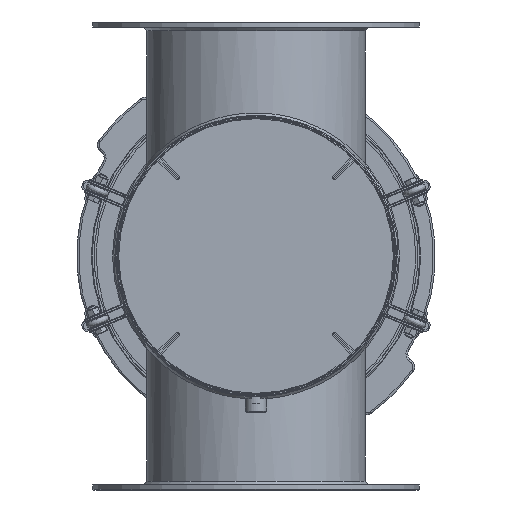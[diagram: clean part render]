
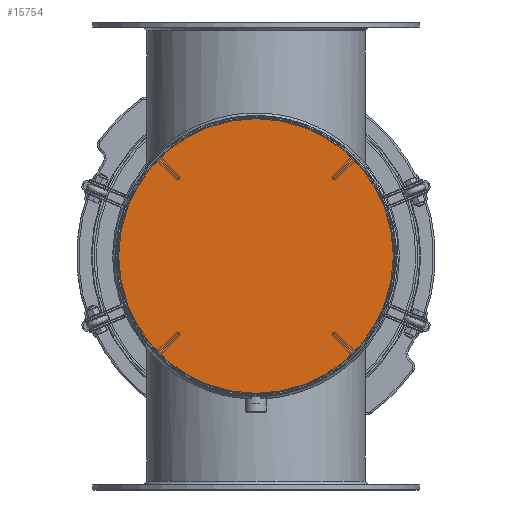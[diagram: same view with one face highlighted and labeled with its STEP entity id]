
A CAD part, front view. The second image highlights one B-rep face of the part: STEP entity #15754.
In plain terms, the highlighted planar face has unit normal (0, -1, 0).
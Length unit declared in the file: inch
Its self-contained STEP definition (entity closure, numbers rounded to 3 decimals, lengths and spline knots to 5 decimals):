
#1471=CIRCLE('',#16898,8.825);
#3183=FACE_OUTER_BOUND('',#4254,.T.);
#4254=EDGE_LOOP('',(#11348));
#7417=VERTEX_POINT('',#28263);
#8871=EDGE_CURVE('',#7417,#7417,#1471,.T.);
#11348=ORIENTED_EDGE('',*,*,#8871,.F.);
#15381=PLANE('',#16901);
#15754=ADVANCED_FACE('',(#3183),#15381,.F.);
#16898=AXIS2_PLACEMENT_3D('',#28264,#19416,#19417);
#16901=AXIS2_PLACEMENT_3D('',#28268,#19422,#19423);
#19416=DIRECTION('center_axis',(0.,1.,0.));
#19417=DIRECTION('ref_axis',(1.,0.,0.));
#19422=DIRECTION('center_axis',(0.,1.,0.));
#19423=DIRECTION('ref_axis',(0.,0.,1.));
#28263=CARTESIAN_POINT('',(-8.825,0.,0.));
#28264=CARTESIAN_POINT('Origin',(0.,0.,0.));
#28268=CARTESIAN_POINT('Origin',(0.,0.,0.));
